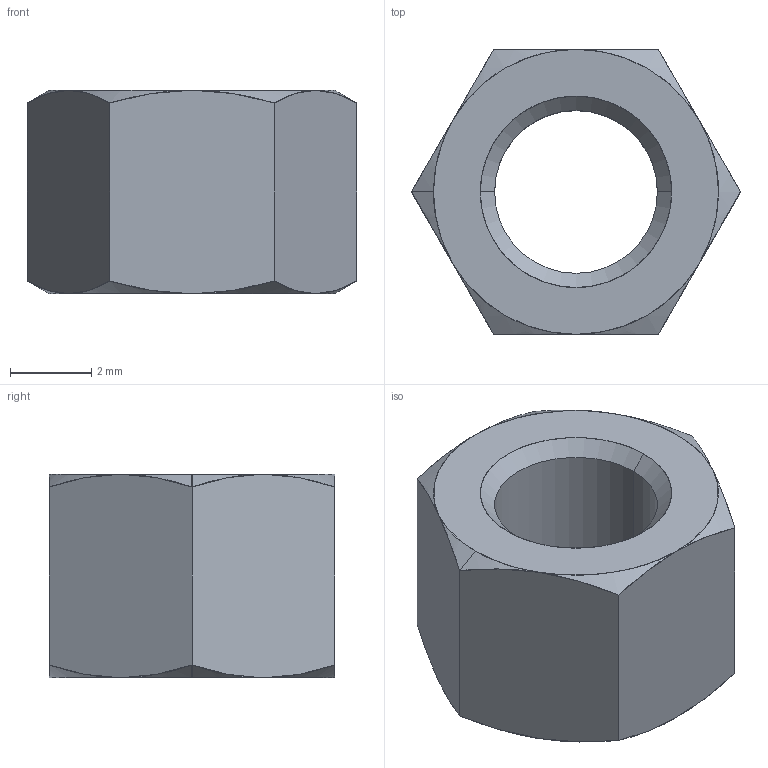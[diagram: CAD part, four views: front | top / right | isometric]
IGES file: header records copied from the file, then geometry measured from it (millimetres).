
Start section: SolidWorks IGES file using analytic representation for surfaces
Global section: file name: C:\Users\ianosborn\Desktop\N0503.NP_v2\N0503.NP_v2_20250227_IGES\N0503.040-005-NP.igs; native system: SolidWorks 2019; preprocessor: SolidWorks 2019; author: IanOsborn; date: 250227.144200; units: millimetre
Bounding box: 8.08 x 7 x 5 mm (x, y, z)
Surface area: 235 mm2 (no closed solid volume)
Topology: 0 solids, 0 shells, 28 faces, 286 edges, 286 vertices
Faces by surface type: revolution 20, bspline 8
